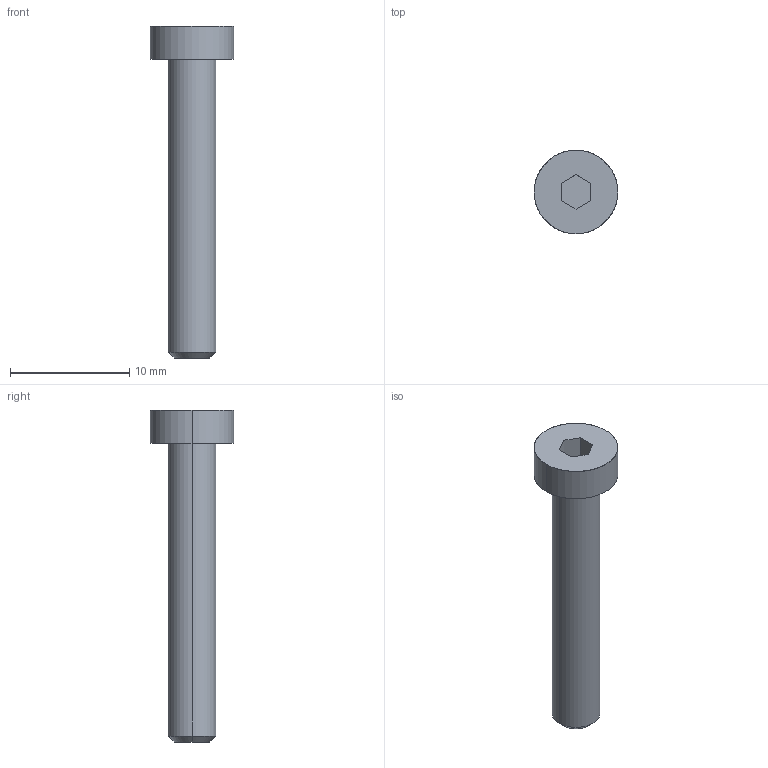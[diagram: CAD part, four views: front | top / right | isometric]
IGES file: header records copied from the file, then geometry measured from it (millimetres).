
Global section: file name: E:\UnigraphicsGraphicData\MISUMI_PRESS-PARTS\IGES\3d_cbs4-25_00451_r00.igs; native system: NX V5.0; preprocessor: UGS NX IGES V5.0; author: MISUMI; date: 20110105.160200; units: millimetre
Bounding box: 7 x 7 x 27.8 mm (x, y, z)
Surface area: 468.9 mm2 (no closed solid volume)
Topology: 0 solids, 0 shells, 16 faces, 92 edges, 92 vertices
Faces by surface type: bspline 16
